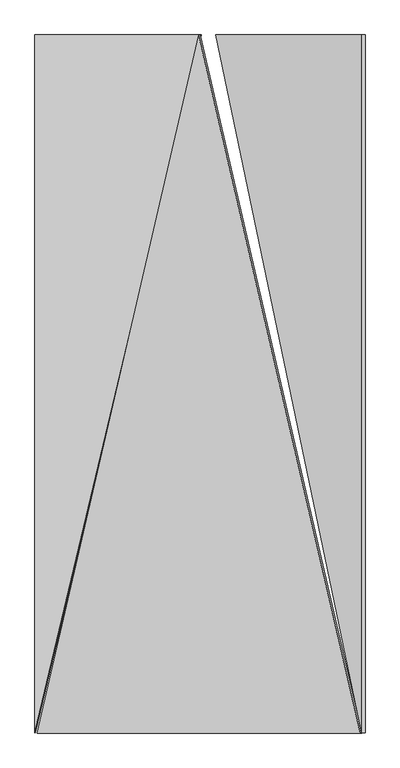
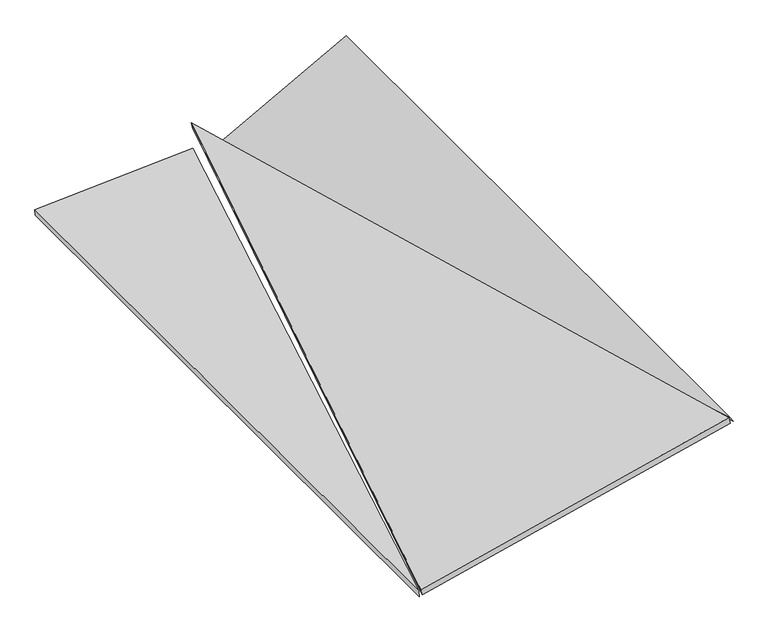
"""IFC4 building model written with IfcOpenShell, lengths in millimetres: proxy geometry, panel sufitowy 6 : panel sufitowy 6."""

from ifc_helpers import new_model, si_unit, frame, origin, place, context, project, spatial, polyline, outline, extrude, source, transform, mapped, element, save


def generic_models_52f4ddec(model_context):
    return source(origin(), model_context, "Body", "SweptSolid", [
        extrude(outline(polyline([(-900.9098917, 0.0), (1006.1909889, 962.7191946), (1235.4098448, 0.0), (-900.9098917, 0.0)])), frame((541.0381858, 1457.4151922, 1313.9862693), z_axis=(-0.2334453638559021, 0.0, 0.9723699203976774), x_axis=(-0.22522083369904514, -0.9728062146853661, -0.05407073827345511)), (0.0, 0.0, 1.0), 20.0),
        extrude(outline(polyline([(-127.4999999, 0.0), (-127.4999999, -2079.0), (-622.5, 0.0), (-127.4999999, 0.0)])), frame((1346.7660384, 2335.0, 1541.3615257), z_axis=(-0.47715876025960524, 0.0, 0.8788171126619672), x_axis=(0.8788171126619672, 0.0, 0.47715876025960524)), (0.0, 0.0, 1.0), 20.0),
        extrude(outline(polyline([(-127.5, 0.0), (-622.5, 0.0), (-127.5, 2079.0), (-127.5, 0.0)])), frame((125.3610502, 2335.0, 1236.9602775), z_axis=(-0.06104853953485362, 0.0, 0.9981347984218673), x_axis=(-0.9981347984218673, 0.0, -0.06104853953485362)), (0.0, 0.0, 1.0), 20.0),
    ])


if __name__ == "__main__":
    model = new_model("IFC4")
    model_context = context("Model", 3, world=origin())
    ifc_project = project(units=[si_unit("LENGTHUNIT", "METRE", prefix="MILLI")], contexts=[model_context])
    site = spatial("IfcSite", under=ifc_project)
    building = spatial("IfcBuilding", under=site)
    placement = place(None, origin())
    generic_models_shape = generic_models_52f4ddec(model_context)
    element("IfcBuildingElementProxy", 1, Name="panel sufitowy 6 : panel sufitowy 6", ObjectType="panel sufitowy 6 : panel sufitowy 6", at=placement, inside=building, context=model_context, shape_type="MappedRepresentation", body=[
        mapped(generic_models_shape, transform((0.0, 0.0, 0.0), x_axis=(1.0, 0.0, 0.0), y_axis=(0.0, 1.0, 0.0), z_axis=(0.0, 0.0, 1.0))),
    ])
    save(model, "model.ifc")
